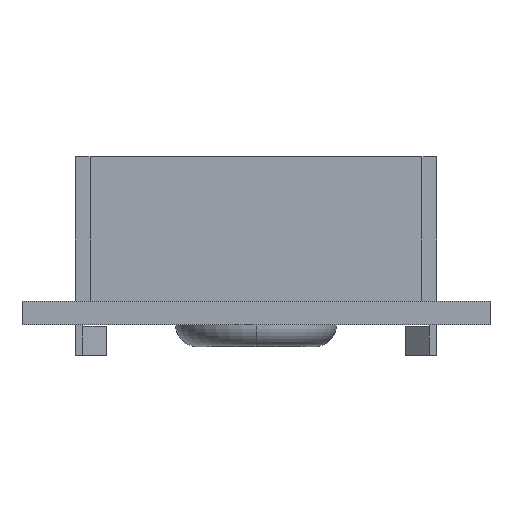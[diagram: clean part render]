
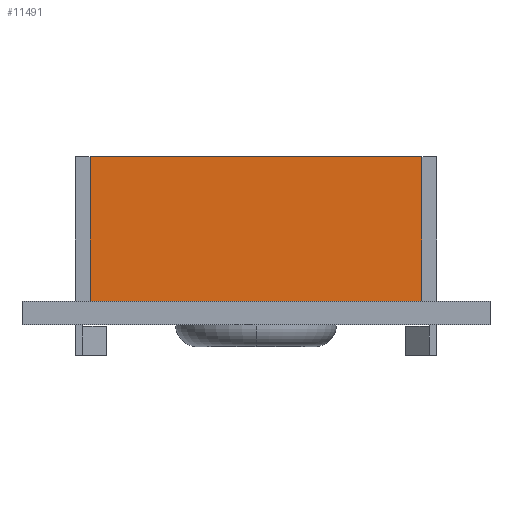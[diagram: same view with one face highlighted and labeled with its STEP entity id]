
A CAD part, left-side view. The second image highlights one B-rep face of the part: STEP entity #11491.
In plain terms, the highlighted planar face has unit normal (-1, 0, 0).
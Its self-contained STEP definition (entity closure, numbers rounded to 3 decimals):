
#1323 = DIRECTION ( 'NONE',  ( 0., -1., 0. ) ) ;
#1391 = ORIENTED_EDGE ( 'NONE', *, *, #1608, .F. ) ;
#1429 = VERTEX_POINT ( 'NONE', #4587 ) ;
#1569 = CARTESIAN_POINT ( 'NONE',  ( -25.65, -11.35, 1.6 ) ) ;
#1608 = EDGE_CURVE ( 'NONE', #11071, #7625, #5261, .T. ) ;
#2694 = VECTOR ( 'NONE', #15623, 1000. ) ;
#3628 = EDGE_LOOP ( 'NONE', ( #19894, #1391, #6761, #9850 ) ) ;
#4587 = CARTESIAN_POINT ( 'NONE',  ( -25.65, 11.35, 11.5 ) ) ;
#4826 = LINE ( 'NONE', #18251, #16681 ) ;
#4848 = EDGE_CURVE ( 'NONE', #17861, #7625, #4826, .T. ) ;
#5261 = LINE ( 'NONE', #14119, #13499 ) ;
#5821 = DIRECTION ( 'NONE',  ( 0., 0., -1. ) ) ;
#6401 = CARTESIAN_POINT ( 'NONE',  ( -25.65, -11.35, 11.5 ) ) ;
#6761 = ORIENTED_EDGE ( 'NONE', *, *, #15982, .F. ) ;
#7625 = VERTEX_POINT ( 'NONE', #1569 ) ;
#7933 = LINE ( 'NONE', #13553, #18274 ) ;
#8811 = AXIS2_PLACEMENT_3D ( 'NONE', #18134, #8925, #19708 ) ;
#8925 = DIRECTION ( 'NONE',  ( 1., 0., 0. ) ) ;
#9047 = EDGE_CURVE ( 'NONE', #1429, #17861, #7933, .T. ) ;
#9850 = ORIENTED_EDGE ( 'NONE', *, *, #9047, .T. ) ;
#10380 = PLANE ( 'NONE',  #8811 ) ;
#10957 = CARTESIAN_POINT ( 'NONE',  ( -25.65, 11.35, 1.6 ) ) ;
#11071 = VERTEX_POINT ( 'NONE', #6401 ) ;
#11222 = FACE_OUTER_BOUND ( 'NONE', #3628, .T. ) ;
#11491 = ADVANCED_FACE ( 'NONE', ( #11222 ), #10380, .F. ) ;
#12197 = DIRECTION ( 'NONE',  ( 0., 0., -1. ) ) ;
#13499 = VECTOR ( 'NONE', #12197, 1000. ) ;
#13553 = CARTESIAN_POINT ( 'NONE',  ( -25.65, 11.35, 11.5 ) ) ;
#14054 = CARTESIAN_POINT ( 'NONE',  ( -25.65, 11.35, 11.5 ) ) ;
#14119 = CARTESIAN_POINT ( 'NONE',  ( -25.65, -11.35, 11.5 ) ) ;
#15623 = DIRECTION ( 'NONE',  ( 0., -1., 0. ) ) ;
#15982 = EDGE_CURVE ( 'NONE', #1429, #11071, #19128, .T. ) ;
#16681 = VECTOR ( 'NONE', #1323, 1000. ) ;
#17861 = VERTEX_POINT ( 'NONE', #10957 ) ;
#18134 = CARTESIAN_POINT ( 'NONE',  ( -25.65, 11.35, 11.5 ) ) ;
#18251 = CARTESIAN_POINT ( 'NONE',  ( -25.65, 11.35, 1.6 ) ) ;
#18274 = VECTOR ( 'NONE', #5821, 1000. ) ;
#19128 = LINE ( 'NONE', #14054, #2694 ) ;
#19708 = DIRECTION ( 'NONE',  ( 0., 1., 0. ) ) ;
#19894 = ORIENTED_EDGE ( 'NONE', *, *, #4848, .T. ) ;
